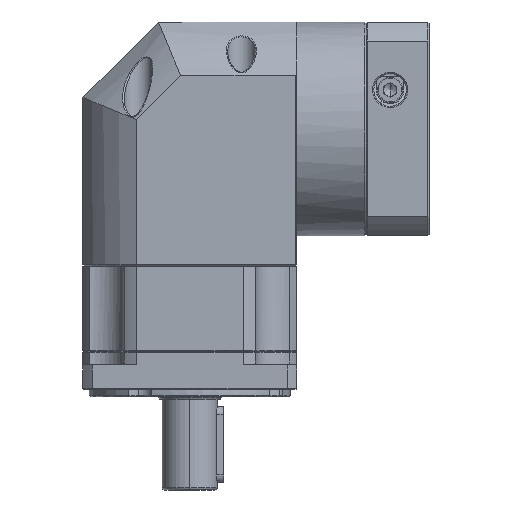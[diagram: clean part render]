
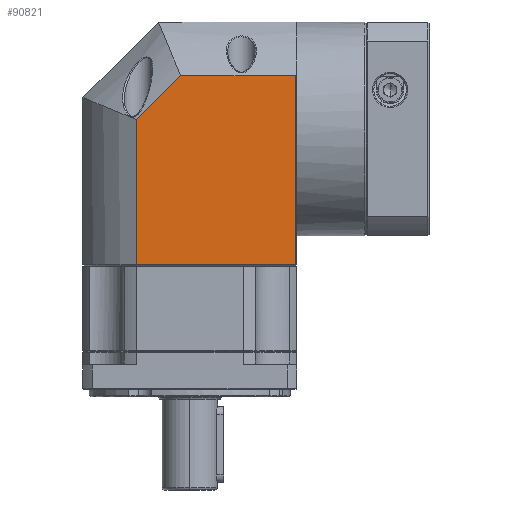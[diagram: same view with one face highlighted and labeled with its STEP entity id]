
A CAD part, front view. The second image highlights one B-rep face of the part: STEP entity #90821.
In plain terms, the highlighted planar face has unit normal (0, -1, 0).
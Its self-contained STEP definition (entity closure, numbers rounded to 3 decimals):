
#1418 = DIRECTION ( 'NONE',  ( 0.707, 0., 0.707 ) ) ;
#9645 = DIRECTION ( 'NONE',  ( 0., 0., 1. ) ) ;
#10050 = ORIENTED_EDGE ( 'NONE', *, *, #96322, .F. ) ;
#15590 = VECTOR ( 'NONE', #57576, 1000. ) ;
#25771 = DIRECTION ( 'NONE',  ( 0., 0., -1. ) ) ;
#27493 = FACE_OUTER_BOUND ( 'NONE', #118003, .T. ) ;
#29114 = VECTOR ( 'NONE', #1418, 1000. ) ;
#29333 = ORIENTED_EDGE ( 'NONE', *, *, #135395, .F. ) ;
#35800 = DIRECTION ( 'NONE',  ( 1., 0., 0. ) ) ;
#37618 = CARTESIAN_POINT ( 'NONE',  ( 28.292, 113.805, -26.507 ) ) ;
#39116 = EDGE_CURVE ( 'NONE', #41249, #128903, #140425, .T. ) ;
#41249 = VERTEX_POINT ( 'NONE', #158535 ) ;
#41309 = LINE ( 'NONE', #77284, #149511 ) ;
#42042 = PLANE ( 'NONE',  #120852 ) ;
#57576 = DIRECTION ( 'NONE',  ( 1., 0., 0. ) ) ;
#63965 = VECTOR ( 'NONE', #25771, 1000. ) ;
#67462 = VECTOR ( 'NONE', #35800, 1000. ) ;
#69921 = EDGE_CURVE ( 'NONE', #79702, #129280, #137352, .T. ) ;
#70438 = DIRECTION ( 'NONE',  ( 0., 1., 0. ) ) ;
#75220 = EDGE_CURVE ( 'NONE', #123656, #128903, #123852, .T. ) ;
#77284 = CARTESIAN_POINT ( 'NONE',  ( 28.292, 113.805, 69.993 ) ) ;
#79702 = VERTEX_POINT ( 'NONE', #130381 ) ;
#90821 = ADVANCED_FACE ( 'NONE', ( #27493 ), #42042, .F. ) ;
#93991 = CARTESIAN_POINT ( 'NONE',  ( 91.506, 113.805, 69.993 ) ) ;
#96322 = EDGE_CURVE ( 'NONE', #123656, #79702, #41309, .T. ) ;
#111013 = CARTESIAN_POINT ( 'NONE',  ( 92.006, 113.805, -26.507 ) ) ;
#118003 = EDGE_LOOP ( 'NONE', ( #142222, #140750, #29333, #170102, #10050 ) ) ;
#120852 = AXIS2_PLACEMENT_3D ( 'NONE', #151689, #70438, #165287 ) ;
#123656 = VERTEX_POINT ( 'NONE', #37618 ) ;
#123852 = LINE ( 'NONE', #111013, #15590 ) ;
#128903 = VERTEX_POINT ( 'NONE', #174578 ) ;
#129280 = VERTEX_POINT ( 'NONE', #172609 ) ;
#130381 = CARTESIAN_POINT ( 'NONE',  ( 28.292, 113.805, 31.176 ) ) ;
#130711 = CARTESIAN_POINT ( 'NONE',  ( 92.006, 113.805, 48.707 ) ) ;
#135395 = EDGE_CURVE ( 'NONE', #129280, #41249, #175610, .T. ) ;
#137352 = LINE ( 'NONE', #163895, #29114 ) ;
#140425 = LINE ( 'NONE', #93991, #63965 ) ;
#140750 = ORIENTED_EDGE ( 'NONE', *, *, #39116, .F. ) ;
#142222 = ORIENTED_EDGE ( 'NONE', *, *, #75220, .T. ) ;
#149511 = VECTOR ( 'NONE', #9645, 1000. ) ;
#151689 = CARTESIAN_POINT ( 'NONE',  ( 92.006, 113.805, 69.993 ) ) ;
#158535 = CARTESIAN_POINT ( 'NONE',  ( 91.506, 113.805, 48.707 ) ) ;
#163895 = CARTESIAN_POINT ( 'NONE',  ( 28.292, 113.805, 31.176 ) ) ;
#165287 = DIRECTION ( 'NONE',  ( -1., 0., 0. ) ) ;
#170102 = ORIENTED_EDGE ( 'NONE', *, *, #69921, .F. ) ;
#172609 = CARTESIAN_POINT ( 'NONE',  ( 45.823, 113.805, 48.707 ) ) ;
#174578 = CARTESIAN_POINT ( 'NONE',  ( 91.506, 113.805, -26.507 ) ) ;
#175610 = LINE ( 'NONE', #130711, #67462 ) ;
